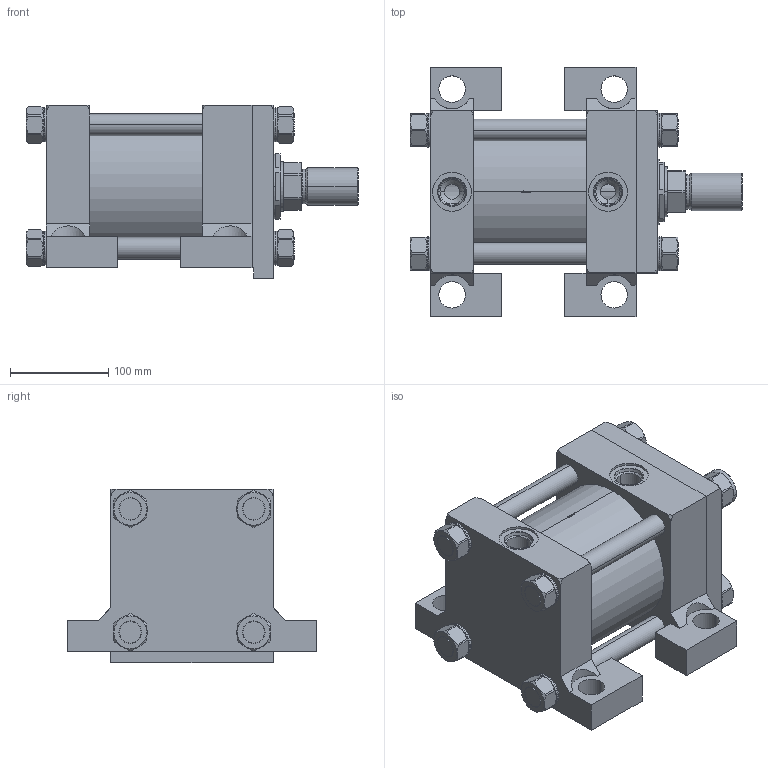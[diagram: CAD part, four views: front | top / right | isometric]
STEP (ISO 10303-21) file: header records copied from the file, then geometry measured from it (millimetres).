
FILE_DESCRIPTION (( 'STEP AP214' ), '1' );
FILE_NAME ('5.00CP2HHNAT114A2.000.step', '2026-03-26T21:15:59', ( '' ), ( '' ), 'SwSTEP 2.0', 'SolidWorks 2023', '' );
FILE_SCHEMA (( 'AUTOMOTIVE_DESIGN' ));
Length unit declared in the file: inch
Products named in the file (1): 5.00CP2HHNAT114A2.000
Bounding box: 338.14 x 254 x 176.21 mm (x, y, z)
Volume: 5268569.3 mm3; surface area: 703152.2 mm2
Topology: 44 solids, 44 shells, 1221 faces, 3151 edges, 2026 vertices
Faces by surface type: plane 801, cylinder 221, cone 161, bspline 30, torus 8
Entity records: 55304 total; most frequent: CARTESIAN_POINT 11029, ORIENTED_EDGE 6302, DIRECTION 5183, EDGE_CURVE 3151, VERTEX_POINT 2026, AXIS2_PLACEMENT_3D 1756, LINE 1671, VECTOR 1671
